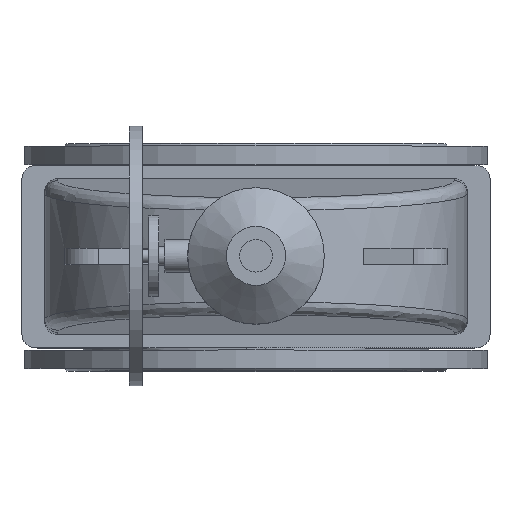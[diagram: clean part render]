
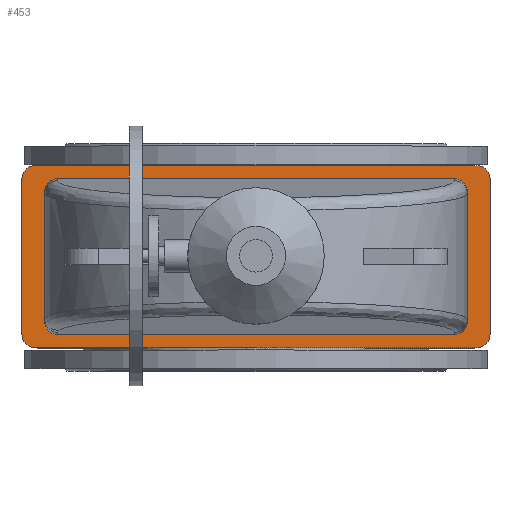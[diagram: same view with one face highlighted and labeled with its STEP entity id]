
A CAD part, top view. The second image highlights one B-rep face of the part: STEP entity #453.
In plain terms, the highlighted planar face has unit normal (0, 0, 1).
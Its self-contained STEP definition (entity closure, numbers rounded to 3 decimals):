
#453=ADVANCED_FACE('',(#4410,#4412),#4414,.T.);
#4410=FACE_BOUND('',#4411,.T.);
#4411=EDGE_LOOP('',(#8556,#8557,#8558,#8559,#8560,#8561,#8562,#8563));
#4412=FACE_BOUND('',#4413,.T.);
#4413=EDGE_LOOP('',(#8564,#8565,#8566,#8567,#8568,#8569,#8570,#8571));
#4414=PLANE('',#4415);
#4415=AXIS2_PLACEMENT_3D('',#4416,#4417,#4418);
#4416=CARTESIAN_POINT('',(0.,0.,746.));
#4417=DIRECTION('',(0.,-0.,1.));
#4418=DIRECTION('',(0.,1.,0.));
#8556=ORIENTED_EDGE('',*,*,#10400,.F.);
#8557=ORIENTED_EDGE('',*,*,#10401,.T.);
#8558=ORIENTED_EDGE('',*,*,#10402,.F.);
#8559=ORIENTED_EDGE('',*,*,#10403,.T.);
#8560=ORIENTED_EDGE('',*,*,#10404,.F.);
#8561=ORIENTED_EDGE('',*,*,#10405,.T.);
#8562=ORIENTED_EDGE('',*,*,#10406,.F.);
#8563=ORIENTED_EDGE('',*,*,#10407,.T.);
#8564=ORIENTED_EDGE('',*,*,#10398,.F.);
#8565=ORIENTED_EDGE('',*,*,#10397,.F.);
#8566=ORIENTED_EDGE('',*,*,#10399,.F.);
#8567=ORIENTED_EDGE('',*,*,#10372,.F.);
#8568=ORIENTED_EDGE('',*,*,#10408,.F.);
#8569=ORIENTED_EDGE('',*,*,#10409,.F.);
#8570=ORIENTED_EDGE('',*,*,#10410,.F.);
#8571=ORIENTED_EDGE('',*,*,#10365,.F.);
#10365=EDGE_CURVE('',#11357,#11359,#11360,.T.);
#10372=EDGE_CURVE('',#11369,#11367,#11371,.T.);
#10397=EDGE_CURVE('',#11410,#11408,#11412,.T.);
#10398=EDGE_CURVE('',#11408,#11357,#11413,.F.);
#10399=EDGE_CURVE('',#11367,#11410,#11414,.T.);
#10400=EDGE_CURVE('',#11415,#11416,#11417,.F.);
#10401=EDGE_CURVE('',#11415,#11418,#11419,.T.);
#10402=EDGE_CURVE('',#11420,#11418,#11421,.F.);
#10403=EDGE_CURVE('',#11420,#11422,#11423,.T.);
#10404=EDGE_CURVE('',#11424,#11422,#11425,.F.);
#10405=EDGE_CURVE('',#11424,#11426,#11427,.T.);
#10406=EDGE_CURVE('',#11428,#11426,#11429,.F.);
#10407=EDGE_CURVE('',#11428,#11416,#11430,.T.);
#10408=EDGE_CURVE('',#11431,#11369,#11432,.F.);
#10409=EDGE_CURVE('',#11433,#11431,#11434,.T.);
#10410=EDGE_CURVE('',#11359,#11433,#11435,.T.);
#11357=VERTEX_POINT('',#13196);
#11359=VERTEX_POINT('',#13200);
#11360=LINE('',#13201,#13202);
#11367=VERTEX_POINT('',#13221);
#11369=VERTEX_POINT('',#13225);
#11371=LINE('',#13229,#13230);
#11408=VERTEX_POINT('',#13322);
#11410=VERTEX_POINT('',#13326);
#11412=LINE('',#13330,#13331);
#11413=(BOUNDED_CURVE()B_SPLINE_CURVE(3,
(#13333,#13334,#13335,#13336),
.UNSPECIFIED.,.F.,.F.)B_SPLINE_CURVE_WITH_KNOTS((4,4),
(0.,1.),
.UNSPECIFIED.)CURVE()GEOMETRIC_REPRESENTATION_ITEM()RATIONAL_B_SPLINE_CURVE((1.,
0.805,0.805,1.))REPRESENTATION_ITEM(''));
#11414=(BOUNDED_CURVE()B_SPLINE_CURVE(3,
(#13337,#13338,#13339,#13340),
.UNSPECIFIED.,.F.,.F.)B_SPLINE_CURVE_WITH_KNOTS((4,4),
(0.,1.),
.UNSPECIFIED.)CURVE()GEOMETRIC_REPRESENTATION_ITEM()RATIONAL_B_SPLINE_CURVE((1.,
0.805,0.805,1.))REPRESENTATION_ITEM(''));
#11415=VERTEX_POINT('',#13341);
#11416=VERTEX_POINT('',#13342);
#11417=CIRCLE('',#13343,20.);
#11418=VERTEX_POINT('',#13347);
#11419=LINE('',#13348,#13349);
#11420=VERTEX_POINT('',#13351);
#11421=CIRCLE('',#13352,20.);
#11422=VERTEX_POINT('',#13356);
#11423=LINE('',#13357,#13358);
#11424=VERTEX_POINT('',#13360);
#11425=CIRCLE('',#13361,20.);
#11426=VERTEX_POINT('',#13365);
#11427=LINE('',#13366,#13367);
#11428=VERTEX_POINT('',#13369);
#11429=CIRCLE('',#13370,20.);
#11430=LINE('',#13374,#13375);
#11431=VERTEX_POINT('',#13377);
#11432=(BOUNDED_CURVE()B_SPLINE_CURVE(3,
(#13378,#13379,#13380,#13381),
.UNSPECIFIED.,.F.,.F.)B_SPLINE_CURVE_WITH_KNOTS((4,4),
(0.,1.),
.UNSPECIFIED.)CURVE()GEOMETRIC_REPRESENTATION_ITEM()RATIONAL_B_SPLINE_CURVE((1.,
0.805,0.805,1.))REPRESENTATION_ITEM(''));
#11433=VERTEX_POINT('',#13382);
#11434=LINE('',#13383,#13384);
#11435=(BOUNDED_CURVE()B_SPLINE_CURVE(3,
(#13386,#13387,#13388,#13389),
.UNSPECIFIED.,.F.,.F.)B_SPLINE_CURVE_WITH_KNOTS((4,4),
(0.,1.),
.UNSPECIFIED.)CURVE()GEOMETRIC_REPRESENTATION_ITEM()RATIONAL_B_SPLINE_CURVE((1.,
0.805,0.805,1.))REPRESENTATION_ITEM(''));
#13196=CARTESIAN_POINT('',(325.,-99.924,746.));
#13200=CARTESIAN_POINT('',(325.,99.924,746.));
#13201=CARTESIAN_POINT('',(325.,-99.924,746.));
#13202=VECTOR('',#13203,1.);
#13203=DIRECTION('',(0.,1.,0.));
#13221=CARTESIAN_POINT('',(-325.,-99.924,746.));
#13225=CARTESIAN_POINT('',(-325.,99.924,746.));
#13229=CARTESIAN_POINT('',(-325.,99.924,746.));
#13230=VECTOR('',#13231,1.);
#13231=DIRECTION('',(0.,-1.,0.));
#13322=CARTESIAN_POINT('',(305.,-120.,746.));
#13326=CARTESIAN_POINT('',(-305.,-120.,746.));
#13330=CARTESIAN_POINT('',(-305.,-120.,746.));
#13331=VECTOR('',#13332,1.);
#13332=DIRECTION('',(1.,0.,0.));
#13333=CARTESIAN_POINT('',(325.,-99.924,746.));
#13334=CARTESIAN_POINT('',(325.,-111.684,746.));
#13335=CARTESIAN_POINT('',(316.716,-120.,746.));
#13336=CARTESIAN_POINT('',(305.,-120.,746.));
#13337=CARTESIAN_POINT('',(-325.,-99.924,746.));
#13338=CARTESIAN_POINT('',(-325.,-111.684,746.));
#13339=CARTESIAN_POINT('',(-316.716,-120.,746.));
#13340=CARTESIAN_POINT('',(-305.,-120.,746.));
#13341=CARTESIAN_POINT('',(-340.,-140.,746.));
#13342=CARTESIAN_POINT('',(-360.,-120.,746.));
#13343=AXIS2_PLACEMENT_3D('',#13344,#13345,#13346);
#13344=CARTESIAN_POINT('',(-340.,-120.,746.));
#13345=DIRECTION('',(0.,-0.,1.));
#13346=DIRECTION('',(-1.,0.,0.));
#13347=CARTESIAN_POINT('',(340.,-140.,746.));
#13348=CARTESIAN_POINT('',(-340.,-140.,746.));
#13349=VECTOR('',#13350,1.);
#13350=DIRECTION('',(1.,0.,0.));
#13351=CARTESIAN_POINT('',(360.,-120.,746.));
#13352=AXIS2_PLACEMENT_3D('',#13353,#13354,#13355);
#13353=CARTESIAN_POINT('',(340.,-120.,746.));
#13354=DIRECTION('',(0.,-0.,1.));
#13355=DIRECTION('',(0.,-1.,0.));
#13356=CARTESIAN_POINT('',(360.,120.,746.));
#13357=CARTESIAN_POINT('',(360.,-120.,746.));
#13358=VECTOR('',#13359,1.);
#13359=DIRECTION('',(0.,1.,0.));
#13360=CARTESIAN_POINT('',(340.,140.,746.));
#13361=AXIS2_PLACEMENT_3D('',#13362,#13363,#13364);
#13362=CARTESIAN_POINT('',(340.,120.,746.));
#13363=DIRECTION('',(0.,-0.,1.));
#13364=DIRECTION('',(1.,0.,0.));
#13365=CARTESIAN_POINT('',(-340.,140.,746.));
#13366=CARTESIAN_POINT('',(340.,140.,746.));
#13367=VECTOR('',#13368,1.);
#13368=DIRECTION('',(-1.,0.,0.));
#13369=CARTESIAN_POINT('',(-360.,120.,746.));
#13370=AXIS2_PLACEMENT_3D('',#13371,#13372,#13373);
#13371=CARTESIAN_POINT('',(-340.,120.,746.));
#13372=DIRECTION('',(0.,-0.,1.));
#13373=DIRECTION('',(0.,1.,0.));
#13374=CARTESIAN_POINT('',(-360.,120.,746.));
#13375=VECTOR('',#13376,1.);
#13376=DIRECTION('',(0.,-1.,0.));
#13377=CARTESIAN_POINT('',(-305.,120.,746.));
#13378=CARTESIAN_POINT('',(-325.,99.924,746.));
#13379=CARTESIAN_POINT('',(-325.,111.684,746.));
#13380=CARTESIAN_POINT('',(-316.716,120.,746.));
#13381=CARTESIAN_POINT('',(-305.,120.,746.));
#13382=CARTESIAN_POINT('',(305.,120.,746.));
#13383=CARTESIAN_POINT('',(305.,120.,746.));
#13384=VECTOR('',#13385,1.);
#13385=DIRECTION('',(-1.,0.,0.));
#13386=CARTESIAN_POINT('',(325.,99.924,746.));
#13387=CARTESIAN_POINT('',(325.,111.684,746.));
#13388=CARTESIAN_POINT('',(316.716,120.,746.));
#13389=CARTESIAN_POINT('',(305.,120.,746.));
